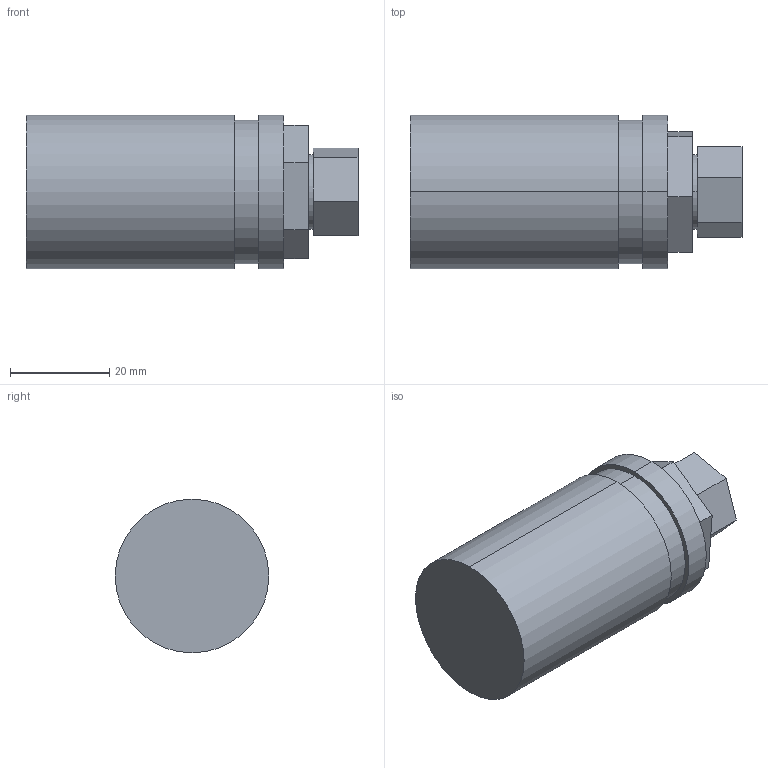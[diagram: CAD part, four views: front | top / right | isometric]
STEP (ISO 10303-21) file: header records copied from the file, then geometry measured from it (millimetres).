
FILE_DESCRIPTION (( 'STEP AP214' ), '1' );
FILE_NAME ('BR601.12 EGB 21.STEP', '2020-12-02T13:35:02', ( '' ), ( '' ), 'SwSTEP 2.0', 'SolidWorks 2018', '' );
FILE_SCHEMA (( 'AUTOMOTIVE_DESIGN' ));
Length unit declared in the file: millimetre
Products named in the file (1): BR601.12 EGB 21
Bounding box: 67 x 31 x 31 mm (x, y, z)
Volume: 43343.3 mm3; surface area: 7781.2 mm2
Topology: 1 solids, 1 shells, 27 faces, 60 edges, 40 vertices
Faces by surface type: plane 19, cylinder 8
Entity records: 784 total; most frequent: DIRECTION 132, CARTESIAN_POINT 128, ORIENTED_EDGE 120, EDGE_CURVE 60, LINE 44, AXIS2_PLACEMENT_3D 44, VECTOR 44, VERTEX_POINT 40
